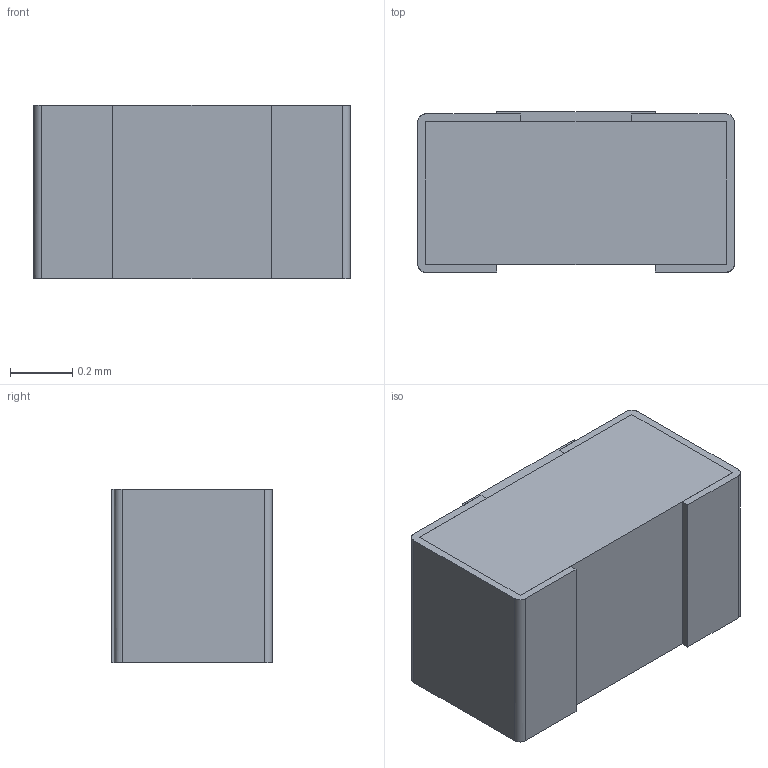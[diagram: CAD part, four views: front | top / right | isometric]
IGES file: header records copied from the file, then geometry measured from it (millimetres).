
Global section: file name: M55342-11; native system: Autodesk Inventor LT ; preprocessor: unknown; author: Neil; date: 20190911.151202; units: inch
Bounding box: 1.02 x 0.52 x 0.56 mm (x, y, z)
Volume: 0.3 mm3; surface area: 5.9 mm2
Topology: 5 solids, 5 shells, 50 faces, 120 edges, 80 vertices
Faces by surface type: bspline 50
